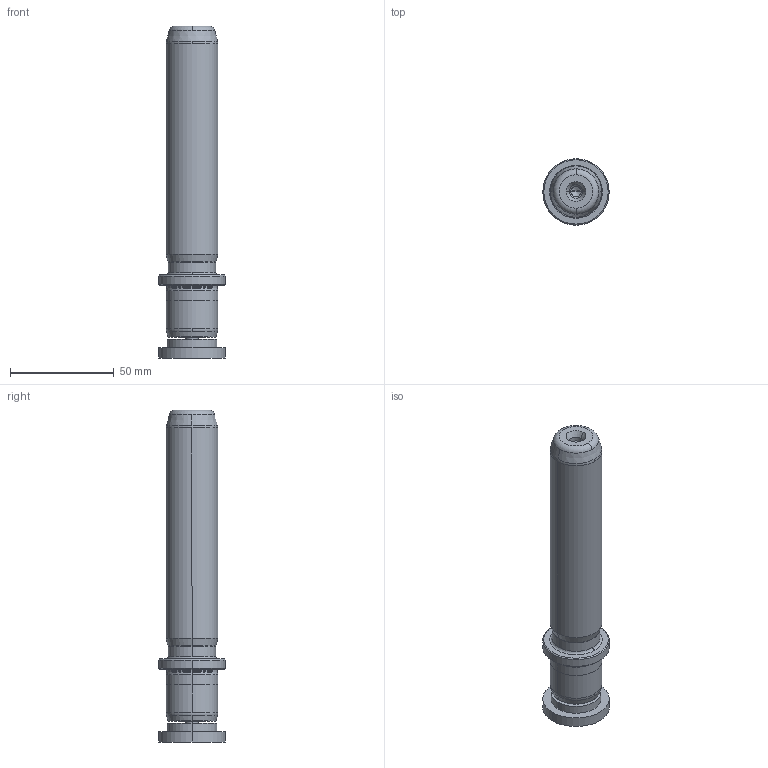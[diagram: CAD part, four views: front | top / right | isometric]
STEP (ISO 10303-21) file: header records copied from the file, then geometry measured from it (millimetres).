
FILE_DESCRIPTION((''),'2;1');
FILE_NAME('P22_025_125.stp','2009-02-02T15:36:03',(''),(''),'Mechanical Desktop 2009','Mechanical Desktop 2009',', , ');
FILE_SCHEMA(('CONFIG_CONTROL_DESIGN'));
Length unit declared in the file: millimetre
Products named in the file (2): Product; blmdl1
Assembly tree (1 placements, depth 2):
  Product
    blmdl1
Bounding box: 32 x 32 x 160 mm (x, y, z)
Volume: 78522.8 mm3; surface area: 17093.5 mm2
Topology: 3 solids, 3 shells, 99 faces, 237 edges, 149 vertices
Faces by surface type: cylinder 32, cone 28, plane 19, torus 10, bspline 10
Entity records: 3419 total; most frequent: CARTESIAN_POINT 923, DIRECTION 570, ORIENTED_EDGE 466, AXIS2_PLACEMENT_3D 246, EDGE_CURVE 233, CIRCLE 155, VERTEX_POINT 149, EDGE_LOOP 110
